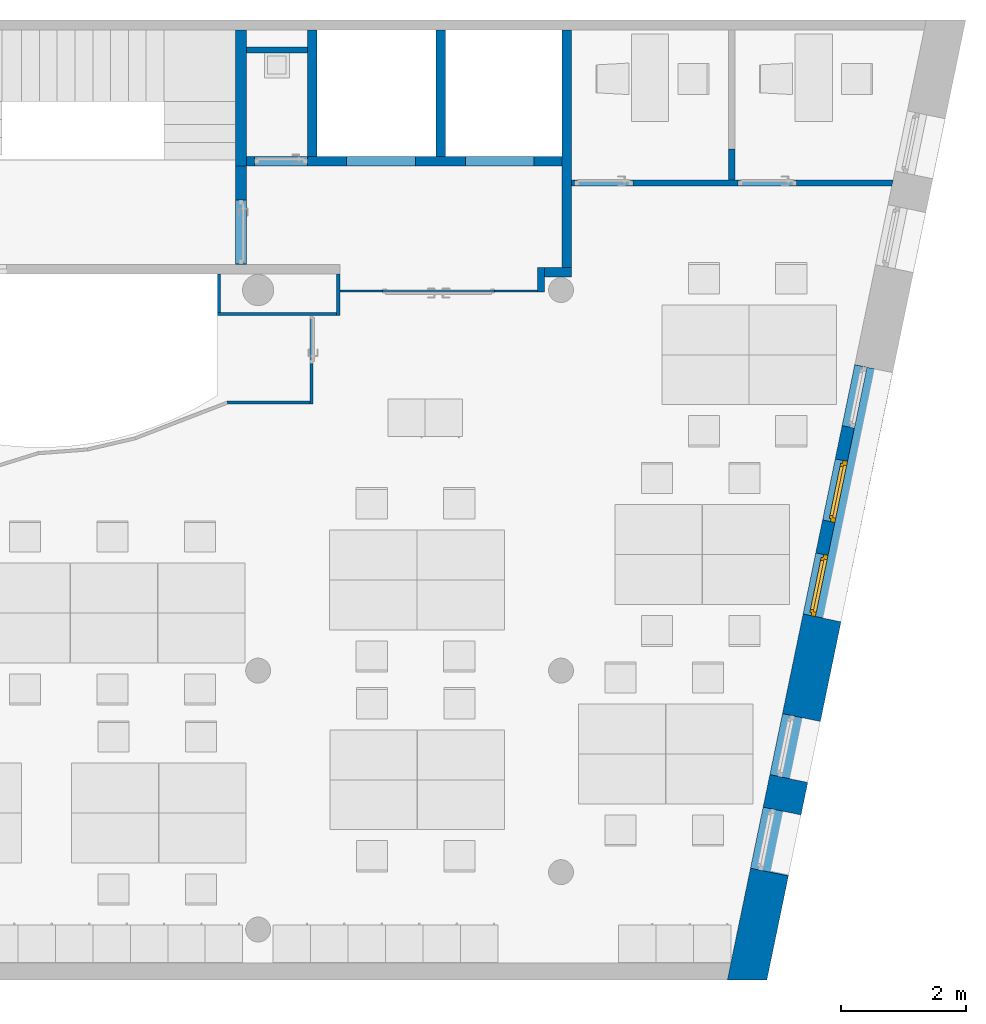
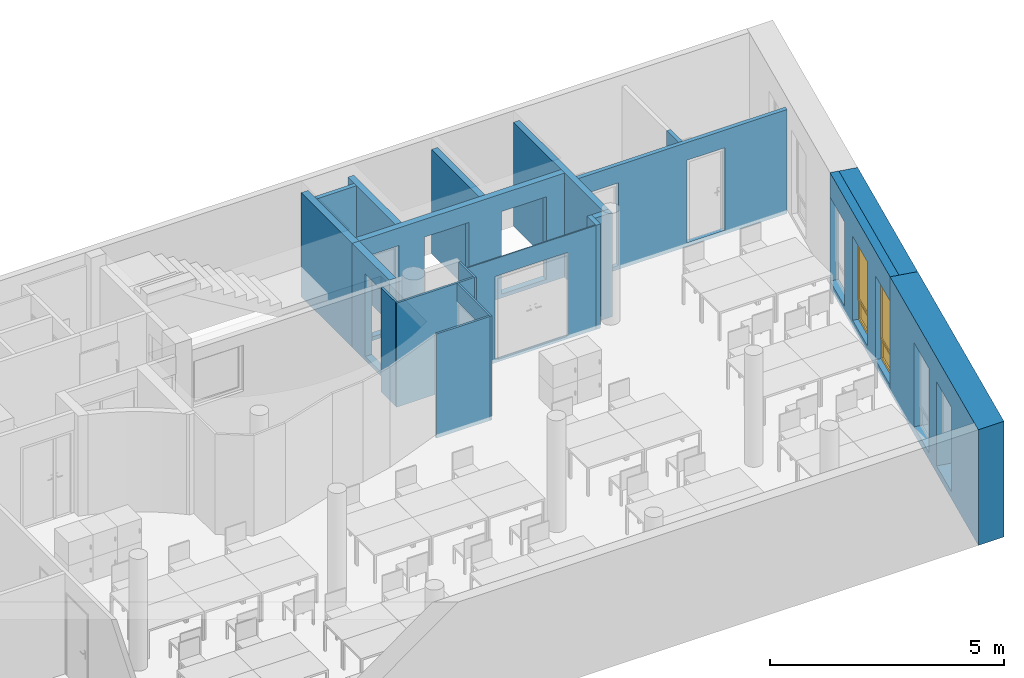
"""IFC4 building model written with IfcOpenShell, lengths in metres."""

from ifc_helpers import new_model, entity, si_unit, converted_unit, derived_unit, frame, frame_2d, origin, origin_with_axes, place, context, subcontext, project, spatial, polyline, rectangle, outline, extrude, closed_shell, open_shell, surface_model, source, transform, mapped, material, layer, layer_set, layer_usage, type_object, element, fill, save


model = new_model("IFC4")

# Units and contexts
model_context = context("Model", 3, precision=1e-05, world=origin())
body_context = subcontext(model_context, "Body", "Model", "MODEL_VIEW")
ifc_project = project(units=[si_unit("LENGTHUNIT", "METRE"), si_unit("AREAUNIT", "SQUARE_METRE"), si_unit("VOLUMEUNIT", "CUBIC_METRE"), si_unit("MASSUNIT", "GRAM", prefix="KILO"), converted_unit("PLANEANGLEUNIT", "DEGREE", entity("IfcPlaneAngleMeasure", 0.0174532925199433), si_unit("PLANEANGLEUNIT", "RADIAN"), dimensions=[0, 0, 0, 0, 0, 0, 0]), derived_unit("THERMALTRANSMITTANCEUNIT", [(si_unit("POWERUNIT", "WATT"), 1), (si_unit("THERMODYNAMICTEMPERATUREUNIT", "KELVIN"), -1), (si_unit("LENGTHUNIT", "METRE"), -2)]), derived_unit("VOLUMETRICFLOWRATEUNIT", [(si_unit("LENGTHUNIT", "METRE"), 3), (converted_unit("TIMEUNIT", "hour", entity("IfcTimeMeasure", 3600.0), si_unit("TIMEUNIT", "SECOND"), dimensions=[0, 0, 1, 0, 0, 0, 0]), -1), (si_unit("LENGTHUNIT", "METRE"), -1)])], contexts=[model_context])

# Building, storeys
building_placement = place(None, origin())
building = spatial("IfcBuilding", under=ifc_project, at=building_placement, Name="HABITATGE PLURIFAMILIAR", CompositionType="ELEMENT")
storey_1_placement = place(building_placement, frame((0.0, 0.0, 18.29)))
storey_1 = spatial("IfcBuildingStorey", under=building, at=storey_1_placement, Name="PLANTA CINQUENA", CompositionType="ELEMENT", Elevation=18.29)
storey_2_placement = place(storey_1_placement, frame((0.0, 0.0, 15.28)))
storey_2 = spatial("IfcBuildingStorey", under=storey_1, at=storey_2_placement, Name="NOU", CompositionType="PARTIAL")

# Walls
ifc_material_1 = material()
ifc_layer_1 = layer(ifc_material_1, 0.15)
ifc_layer_set_1 = layer_set([ifc_layer_1])
ifc_layer_usage_1 = layer_usage(ifc_layer_set_1, "AXIS2", "POSITIVE", 0.0)
wall_1_placement = place(storey_2_placement, frame((419.136984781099, 26.0394598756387, -15.38), z_axis=(0.0, 0.0, 1.0), x_axis=(0.0, 1.0, 0.0)))
element("IfcWall", 1, at=wall_1_placement, inside=storey_2, material=ifc_layer_usage_1, Name="Evans P5", context=body_context, shape_type="SweptSolid", body=[
    extrude(rectangle(XDim=2.02878802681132, YDim=0.15, at=frame_2d((1.01439401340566, 0.075), x_axis=(1.0, 0.0))), origin_with_axes(), (0.0, 0.0, 1.0), 2.71),
])
ifc_material_2 = material()
ifc_layer_2 = layer(ifc_material_2, 0.15)
ifc_layer_set_2 = layer_set([ifc_layer_2])
ifc_layer_usage_2 = layer_usage(ifc_layer_set_2, "AXIS2", "POSITIVE", 0.0)
wall_2_placement = place(storey_2_placement, frame((421.156984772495, 24.2594598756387, -15.38), z_axis=(0.0, 0.0, 1.0), x_axis=(-1.0, 0.0, 0.0)))
element("IfcWall", 2, at=wall_2_placement, inside=storey_2, material=ifc_layer_usage_2, Name="Evans P5", context=body_context, shape_type="SweptSolid", body=[
    extrude(rectangle(XDim=0.42934681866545, YDim=0.15, at=frame_2d((0.214673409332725, 0.075), x_axis=(1.0, 0.0))), origin_with_axes(), (0.0, 0.0, 1.0), 2.71),
])
ifc_material_3 = material()
ifc_layer_3 = layer(ifc_material_3, 0.15)
ifc_layer_set_3 = layer_set([ifc_layer_3])
ifc_layer_usage_3 = layer_usage(ifc_layer_set_3, "AXIS2", "POSITIVE", 0.0)
wall_3_placement = place(storey_2_placement, frame((421.006984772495, 28.06824790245, -15.38), z_axis=(0.0, 0.0, 1.0), x_axis=(0.0, -1.0, 0.0)))
element("IfcWall", 3, at=wall_3_placement, inside=storey_2, material=ifc_layer_usage_3, Name="Evans P5", context=body_context, shape_type="SweptSolid", body=[
    extrude(rectangle(XDim=3.80878802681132, YDim=0.15, at=frame_2d((1.90439401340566, 0.075), x_axis=(1.0, 0.0))), origin_with_axes(), (0.0, 0.0, 1.0), 2.71),
])

# Wall, opening
ifc_material_4 = material()
ifc_layer_4 = layer(ifc_material_4, 0.03)
ifc_layer_set_4 = layer_set([ifc_layer_4])
ifc_layer_usage_4 = layer_usage(ifc_layer_set_4, "AXIS2", "POSITIVE", 0.0)
wall_4_placement = place(storey_2_placement, frame((420.61763795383, 23.8994598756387, -15.38), z_axis=(0.0, 0.0, 1.0), x_axis=(-1.0, 0.0, 0.0)))
wall_4 = element("IfcWall", 4, at=wall_4_placement, inside=storey_2, material=ifc_layer_usage_4, Name="Evans P5", context=body_context, shape_type="SweptSolid", body=[
    extrude(rectangle(XDim=3.17065318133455, YDim=0.03, at=frame_2d((1.58532659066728, 0.015), x_axis=(1.0, 0.0))), origin_with_axes(), (0.0, 0.0, 1.0), 2.71),
])
opening_1_placement = place(wall_4_placement, frame((2.48717139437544, 0.03, 0.1), z_axis=(0.0, -1.0, 0.0), x_axis=(0.0, 0.0, 1.0)))
element("IfcOpeningElement", 5, at=opening_1_placement, cuts=wall_4, Name="Vano porta P5", ObjectType="Opening", context=body_context, shape_type="SweptSolid", body=[
    extrude(outline(polyline([(2.15, 1.79909702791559), (2.15, 0.0), (0.0, 0.0), (0.0, 1.79909702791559), (2.15, 1.79909702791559)])), origin_with_axes(), (0.0, 0.0, 1.0), 0.03),
])

# Walls
ifc_material_5 = material()
ifc_layer_5 = layer(ifc_material_5, 0.05)
ifc_layer_set_5 = layer_set([ifc_layer_5])
ifc_layer_usage_5 = layer_usage(ifc_layer_set_5, "AXIS2", "POSITIVE", 0.0)
wall_5_placement = place(storey_2_placement, frame((417.446984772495, 23.4894598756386, -15.38), z_axis=(0.0, 0.0, 1.0), x_axis=(0.0, 1.0, 0.0)))
element("IfcWall", 6, at=wall_5_placement, inside=storey_2, material=ifc_layer_usage_5, Name="Evans P5", context=body_context, shape_type="SweptSolid", body=[
    extrude(rectangle(XDim=0.67, YDim=0.05, at=frame_2d((0.335, 0.025), x_axis=(1.0, 0.0))), origin_with_axes(), (0.0, 0.0, 1.0), 2.71),
])
ifc_material_6 = material()
ifc_layer_6 = layer(ifc_material_6, 0.05)
ifc_layer_set_6 = layer_set([ifc_layer_6])
ifc_layer_usage_6 = layer_usage(ifc_layer_set_6, "AXIS2", "POSITIVE", 0.0)
wall_6_placement = place(storey_2_placement, frame((415.486984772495, 23.4894598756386, -15.38)))
element("IfcWall", 7, at=wall_6_placement, inside=storey_2, material=ifc_layer_usage_6, Name="Evans P5", context=body_context, shape_type="SweptSolid", body=[
    extrude(rectangle(XDim=1.91, YDim=0.05, at=frame_2d((0.955, 0.025), x_axis=(1.0, 0.0))), origin_with_axes(), (0.0, 0.0, 1.0), 2.71),
])
ifc_material_7 = material()
ifc_layer_7 = layer(ifc_material_7, 0.05)
ifc_layer_set_7 = layer_set([ifc_layer_7])
ifc_layer_usage_7 = layer_usage(ifc_layer_set_7, "AXIS2", "POSITIVE", 0.0)
wall_7_placement = place(storey_2_placement, frame((415.486984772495, 24.1594598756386, -15.38), z_axis=(0.0, 0.0, 1.0), x_axis=(0.0, -1.0, 0.0)))
element("IfcWall", 8, at=wall_7_placement, inside=storey_2, material=ifc_layer_usage_7, Name="Evans P5", context=body_context, shape_type="SweptSolid", body=[
    extrude(rectangle(XDim=0.62, YDim=0.05, at=frame_2d((0.31, 0.025), x_axis=(1.0, 0.0))), origin_with_axes(), (0.0, 0.0, 1.0), 2.71),
])
ifc_material_8 = material()
ifc_layer_8 = layer(ifc_material_8, 0.15)
ifc_layer_set_8 = layer_set([ifc_layer_8])
ifc_layer_usage_8 = layer_usage(ifc_layer_set_8, "AXIS2", "POSITIVE", 0.0)
wall_8_placement = place(storey_2_placement, frame((417.076984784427, 26.0394598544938, -15.38), z_axis=(0.0, 0.0, 1.0), x_axis=(0.0, 1.0, 0.0)))
element("IfcWall", 9, at=wall_8_placement, inside=storey_2, material=ifc_layer_usage_8, Name="Evans P5", context=body_context, shape_type="SweptSolid", body=[
    extrude(outline(polyline([(0.0, -0.15), (2.02878804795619, -0.15), (2.02878804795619, 0.0), (1.08439153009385e-05, 0.0), (0.0, -0.15)])), frame((0.0, 0.15, 0.0), z_axis=(0.0, 0.0, 1.0), x_axis=(1.0, 0.0, 0.0)), (0.0, 0.0, 1.0), 2.71),
])

# Wall, openings
ifc_material_9 = material()
ifc_layer_9 = layer(ifc_material_9, 0.15)
ifc_layer_set_9 = layer_set([ifc_layer_9])
ifc_layer_usage_9 = layer_usage(ifc_layer_set_9, "AXIS2", "POSITIVE", 0.0)
wall_9_placement = place(storey_2_placement, frame((415.946984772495, 25.8894598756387, -15.38)))
wall_9 = element("IfcWall", 10, at=wall_9_placement, inside=storey_2, material=ifc_layer_usage_9, Name="Evans P5", context=body_context, shape_type="SweptSolid", body=[
    extrude(outline(polyline([(0.0, 0.0), (5.05999999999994, 0.0), (5.05999999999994, 0.15), (1.13000001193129, 0.15), (0.980000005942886, 0.150010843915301), (0.13, 0.150010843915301), (0.0, 0.150000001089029), (0.0, 0.0)])), origin_with_axes(), (0.0, 0.0, 1.0), 2.71),
])
opening_2_placement = place(wall_9_placement, frame((3.51000000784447, 0.0, 0.1), z_axis=(0.0, 1.0, 0.0), x_axis=(0.0, 0.0, 1.0)))
element("IfcOpeningElement", 11, at=opening_2_placement, cuts=wall_9, Name="Vano porta P5", ObjectType="Opening", context=body_context, shape_type="SweptSolid", body=[
    extrude(outline(polyline([(2.15, 1.09999999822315), (2.15, 0.0), (0.0, 0.0), (0.0, 1.09999999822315), (2.15, 1.09999999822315)])), origin_with_axes(), (0.0, 0.0, 1.0), 0.15),
])
opening_3_placement = place(wall_9_placement, frame((1.61000001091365, 0.0, 0.1), z_axis=(0.0, 1.0, 0.0), x_axis=(0.0, 0.0, 1.0)))
element("IfcOpeningElement", 12, at=opening_3_placement, cuts=wall_9, Name="Vano porta P5", ObjectType="Opening", context=body_context, shape_type="SweptSolid", body=[
    extrude(outline(polyline([(2.15, 1.09999999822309), (2.15, 0.0), (0.0, 0.0), (0.0, 1.09999999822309), (2.15, 1.09999999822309)])), origin_with_axes(), (0.0, 0.0, 1.0), 0.15),
])
opening_4_placement = place(wall_9_placement, frame((0.13, 0.0, 0.1), z_axis=(0.0, 1.0, 0.0), x_axis=(0.0, 0.0, 1.0)))
element("IfcOpeningElement", 13, at=opening_4_placement, cuts=wall_9, Name="Vano porta P5", ObjectType="Opening", context=body_context, shape_type="SweptSolid", body=[
    extrude(outline(polyline([(2.15, 0.85), (2.15, 0.0), (0.0, 0.0), (0.0, 0.85), (2.15, 0.85)])), origin_with_axes(), (0.0, 0.0, 1.0), 0.150010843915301),
])

# Walls
ifc_material_10 = material()
ifc_layer_10 = layer(ifc_material_10, 0.17)
ifc_layer_set_10 = layer_set([ifc_layer_10])
ifc_layer_usage_10 = layer_usage(ifc_layer_set_10, "AXIS2", "POSITIVE", 0.0)
wall_10_placement = place(storey_2_placement, frame((415.776984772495, 28.0682478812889, -15.38), z_axis=(0.0, 0.0, 1.0), x_axis=(0.0, -1.0, 0.0)))
element("IfcWall", 14, at=wall_10_placement, inside=storey_2, material=ifc_layer_usage_10, Name="Evans P5", context=body_context, shape_type="SweptSolid", body=[
    extrude(rectangle(XDim=2.17878800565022, YDim=0.17, at=frame_2d((1.08939400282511, 0.085), x_axis=(1.0, 0.0))), origin_with_axes(), (0.0, 0.0, 1.0), 2.71),
])
ifc_material_11 = material()
ifc_layer_11 = layer(ifc_material_11, 0.11)
ifc_layer_set_11 = layer_set([ifc_layer_11])
ifc_layer_usage_11 = layer_usage(ifc_layer_set_11, "AXIS2", "POSITIVE", 0.0)
wall_11_placement = place(storey_2_placement, frame((420.72763795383, 23.8694598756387, -15.38), z_axis=(0.0, 0.0, 1.0), x_axis=(0.0, 1.0, 0.0)))
element("IfcWall", 15, at=wall_11_placement, inside=storey_2, material=ifc_layer_usage_11, Name="Evans P5", context=body_context, shape_type="SweptSolid", body=[
    extrude(rectangle(XDim=0.39, YDim=0.11, at=frame_2d((0.195, 0.055), x_axis=(1.0, 0.0))), origin_with_axes(), (0.0, 0.0, 1.0), 2.71),
])
ifc_material_12 = material()
ifc_layer_12 = layer(ifc_material_12, 0.05)
ifc_layer_set_12 = layer_set([ifc_layer_12])
ifc_layer_usage_12 = layer_usage(ifc_layer_set_12, "AXIS2", "POSITIVE", 0.0)
wall_12_placement = place(storey_2_placement, frame((415.646984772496, 22.0694598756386, -15.38)))
element("IfcWall", 16, at=wall_12_placement, inside=storey_2, material=ifc_layer_usage_12, Name="Mampara P5", context=body_context, shape_type="SweptSolid", body=[
    extrude(outline(polyline([(0.00933347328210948, 0.0), (1.32933347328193, 0.0), (1.32933347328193, 0.05), (0.0, 0.05), (0.00933347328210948, 0.0)])), frame((-0.00933347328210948, 0.0, 0.0), z_axis=(0.0, 0.0, 1.0), x_axis=(1.0, 0.0, 0.0)), (0.0, 0.0, 1.0), 2.71),
])

# Wall, opening
ifc_material_13 = material()
ifc_layer_13 = layer(ifc_material_13, 0.05)
ifc_layer_set_13 = layer_set([ifc_layer_13])
ifc_layer_usage_13 = layer_usage(ifc_layer_set_13, "AXIS2", "POSITIVE", 0.0)
wall_13_placement = place(storey_2_placement, frame((417.016984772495, 22.0694598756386, -15.38), z_axis=(0.0, 0.0, 1.0), x_axis=(0.0, 1.0, 0.0)))
wall_13 = element("IfcWall", 17, at=wall_13_placement, inside=storey_2, material=ifc_layer_usage_13, Name="Mampara P5", context=body_context, shape_type="SweptSolid", body=[
    extrude(rectangle(XDim=1.42, YDim=0.05, at=frame_2d((0.71, 0.025), x_axis=(1.0, 0.0))), origin_with_axes(), (0.0, 0.0, 1.0), 2.71),
])
opening_5_placement = place(wall_13_placement, frame((1.42, 0.05, 0.1), z_axis=(0.0, -1.0, 0.0), x_axis=(0.0, 0.0, 1.0)))
element("IfcOpeningElement", 18, at=opening_5_placement, cuts=wall_13, Name="Vano porta P5", ObjectType="Opening", context=body_context, shape_type="SweptSolid", body=[
    extrude(outline(polyline([(2.15, 0.763317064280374), (2.15, 0.0), (0.0, 0.0), (0.0, 0.763317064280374), (2.15, 0.763317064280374)])), origin_with_axes(), (0.0, 0.0, 1.0), 0.05),
])

# Wall, openings
ifc_material_14 = material()
ifc_layer_14 = layer(ifc_material_14, 0.620000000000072)
ifc_layer_set_14 = layer_set([ifc_layer_14])
ifc_layer_usage_14 = layer_usage(ifc_layer_set_14, "AXIS2", "POSITIVE", 0.0)
wall_14_placement = place(storey_2_placement, frame((424.291440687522, 12.8406121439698, -15.38), z_axis=(0.0, 0.0, 1.0), x_axis=(0.202727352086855, 0.979235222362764, 0.0)))
wall_14 = element("IfcWall", 19, at=wall_14_placement, inside=storey_2, material=ifc_layer_usage_14, Name="Façana sur-est P5", context=body_context, shape_type="SweptSolid", body=[
    extrude(outline(polyline([(0.128356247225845, -0.620000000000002), (5.99096327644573, -0.620000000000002), (5.99096327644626, 0.0), (0.0, 0.0), (0.128356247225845, -0.620000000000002)])), frame((-0.128356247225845, 0.620000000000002, 0.0), z_axis=(0.0, 0.0, 1.0), x_axis=(1.0, 0.0, 0.0)), (0.0, 0.0, 1.0), 3.01),
])
opening_6_placement = place(wall_14_placement, frame((1.70184256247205, 0.0, 0.19), z_axis=(6.60117122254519e-15, 1.0, 0.0), x_axis=(0.0, 0.0, 1.0)))
element("IfcOpeningElement", 20, at=opening_6_placement, cuts=wall_14, Name="Vano finestra P5", ObjectType="Opening", context=body_context, shape_type="SweptSolid", body=[
    extrude(outline(polyline([(2.19, 1.00000000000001), (2.19, 0.0), (0.0, 0.0), (0.0, 1.00000000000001), (2.19, 1.00000000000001)])), origin_with_axes(), (0.0, 0.0, 1.0), 0.620000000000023),
])
opening_7_placement = place(wall_14_placement, frame((3.23329492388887, 0.0, 0.19), z_axis=(1.02684885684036e-14, 1.0, 0.0), x_axis=(0.0, 0.0, 1.0)))
element("IfcOpeningElement", 21, at=opening_7_placement, cuts=wall_14, Name="Vano finestra P5", ObjectType="Opening", context=body_context, shape_type="SweptSolid", body=[
    extrude(outline(polyline([(2.19, 0.998546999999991), (2.19, 0.0), (0.0, 0.0), (0.0, 0.998546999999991), (2.19, 0.998546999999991)])), origin_with_axes(), (0.0, 0.0, 1.0), 0.620000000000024),
])

# Wall, openings, doors
ifc_material_15 = material()
ifc_layer_15 = layer(ifc_material_15, 0.199999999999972)
ifc_layer_set_15 = layer_set([ifc_layer_15])
ifc_layer_usage_15 = layer_usage(ifc_layer_set_15, "AXIS2", "POSITIVE", 0.0)
wall_15_placement = place(storey_2_placement, frame((425.70056364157, 22.7054025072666, -15.38), z_axis=(0.0, 0.0, 1.0), x_axis=(-0.202727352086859, -0.979235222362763, 0.0)))
wall_15 = element("IfcWall", 22, at=wall_15_placement, inside=storey_2, material=ifc_layer_usage_15, Name="Façana sur-est P5", context=body_context, shape_type="SweptSolid", body=[
    extrude(rectangle(XDim=4.0830109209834, YDim=0.199999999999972, at=frame_2d((2.0415054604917, 0.0999999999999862), x_axis=(1.0, 0.0))), origin_with_axes(), (0.0, 0.0, 1.0), 3.01),
])
opening_8_placement = place(wall_15_placement, frame((4.0830109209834, 0.19999999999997, 0.19), z_axis=(-1.13686837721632e-14, -1.0, 0.0), x_axis=(0.0, 0.0, 1.0)))
opening_8 = element("IfcOpeningElement", 23, at=opening_8_placement, cuts=wall_15, Name="Vano finestra P5", ObjectType="Opening", context=body_context, shape_type="SweptSolid", body=[
    extrude(outline(polyline([(2.19, 1.0), (2.19, 0.0), (0.0, 0.0), (0.0, 1.0), (2.19, 1.0)])), origin_with_axes(), (0.0, 0.0, 1.0), 0.199999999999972),
])
opening_9_placement = place(wall_15_placement, frame((2.54368981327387, 0.199999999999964, 0.19), z_axis=(-1.13686837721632e-14, -1.0, 0.0), x_axis=(0.0, 0.0, 1.0)))
opening_9 = element("IfcOpeningElement", 24, at=opening_9_placement, cuts=wall_15, Name="Vano finestra P5", ObjectType="Opening", context=body_context, shape_type="SweptSolid", body=[
    extrude(outline(polyline([(2.19, 1.0), (2.19, 0.0), (0.0, 0.0), (0.0, 1.0), (2.19, 1.0)])), origin_with_axes(), (0.0, 0.0, 1.0), 0.199999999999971),
])
opening_10_placement = place(wall_15_placement, frame((0.999999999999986, 0.199999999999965, 0.19), z_axis=(6.82121026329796e-15, -1.0, 0.0), x_axis=(0.0, 0.0, 1.0)))
element("IfcOpeningElement", 25, at=opening_10_placement, cuts=wall_15, Name="Vano finestra P5", ObjectType="Opening", context=body_context, shape_type="SweptSolid", body=[
    extrude(outline(polyline([(2.19, 0.996324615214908), (2.19, 0.0), (0.0, 0.0), (0.0, 0.996324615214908), (2.19, 0.996324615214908)])), origin_with_axes(), (0.0, 0.0, 1.0), 0.199999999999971),
])
door_type_1 = type_object("IfcDoorType", Name="Finestra P5", OperationType="NOTDEFINED", ParameterTakesPrecedence=False, PredefinedType="DOOR")
shared_shape = source(origin_with_axes(), body_context, "Body", "SurfaceModel", [
    surface_model("IfcShellBasedSurfaceModel", [(0.0, 0.0700000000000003, 2.19), (0.0, 0.07, 0.0), (0.07, 0.07, 0.0), (0.07, 0.0700000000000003, 2.19), (0.0, 0.0, 0.0), (0.0, 0.0, 2.19), (0.07, 0.0, 2.19), (0.07, 0.0, 0.0)], [closed_shell([[[0, 1, 2, 3]], [[4, 5, 6, 7]], [[1, 0, 5, 4]], [[2, 1, 4, 7]], [[3, 2, 7, 6]], [[0, 3, 6, 5]]], orient=[[False], [False], [False], [False], [False], [False]])]),
    surface_model("IfcShellBasedSurfaceModel", [(0.929999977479, 0.0700000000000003, 2.19), (0.929999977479, 0.07, 0.0), (0.999999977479, 0.07, 0.0), (0.999999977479, 0.0700000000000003, 2.19), (0.929999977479, 0.0, 0.0), (0.929999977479, 0.0, 2.19), (0.999999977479, 0.0, 2.19), (0.999999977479, 0.0, 0.0)], [closed_shell([[[0, 1, 2, 3]], [[4, 5, 6, 7]], [[1, 0, 5, 4]], [[2, 1, 4, 7]], [[3, 2, 7, 6]], [[0, 3, 6, 5]]], orient=[[False], [False], [False], [False], [False], [False]])]),
    surface_model("IfcShellBasedSurfaceModel", [(0.07, 0.07, 0.07), (0.07, 0.07, 0.0), (0.929999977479, 0.07, 0.0), (0.929999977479, 0.07, 0.07), (0.07, 0.0, 0.0), (0.07, 0.0, 0.07), (0.929999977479, 0.0, 0.07), (0.929999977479, 0.0, 0.0)], [closed_shell([[[0, 1, 2, 3]], [[4, 5, 6, 7]], [[1, 0, 5, 4]], [[2, 1, 4, 7]], [[3, 2, 7, 6]], [[0, 3, 6, 5]]], orient=[[False], [False], [False], [False], [False], [False]])]),
    surface_model("IfcShellBasedSurfaceModel", [(0.07, 0.0700000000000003, 2.19), (0.07, 0.0700000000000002, 2.12), (0.929999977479, 0.0700000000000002, 2.12), (0.929999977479, 0.0700000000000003, 2.19), (0.07, 0.0, 2.12), (0.07, 0.0, 2.19), (0.929999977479, 0.0, 2.19), (0.929999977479, 0.0, 2.12)], [closed_shell([[[0, 1, 2, 3]], [[4, 5, 6, 7]], [[1, 0, 5, 4]], [[2, 1, 4, 7]], [[3, 2, 7, 6]], [[0, 3, 6, 5]]], orient=[[False], [False], [False], [False], [False], [False]])]),
    surface_model("IfcShellBasedSurfaceModel", [(0.07, 0.035, 0.07), (0.929999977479, 0.035, 0.07), (0.929999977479, 0.0350000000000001, 0.57), (0.07, 0.0350000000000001, 0.57)], [open_shell([[[0, 1, 2, 3]]], orient=[[False]])]),
    surface_model("IfcShellBasedSurfaceModel", [(0.05, 0.1, 2.14), (0.05, 0.1, 0.551), (0.1, 0.1, 0.551), (0.1, 0.1, 2.14), (0.05, 0.0500000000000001, 0.551), (0.05, 0.0500000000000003, 2.14), (0.1, 0.0500000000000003, 2.14), (0.1, 0.0500000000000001, 0.551)], [closed_shell([[[0, 1, 2, 3]], [[4, 5, 6, 7]], [[1, 0, 5, 4]], [[2, 1, 4, 7]], [[3, 2, 7, 6]], [[0, 3, 6, 5]]], orient=[[False], [False], [False], [False], [False], [False]])]),
    surface_model("IfcShellBasedSurfaceModel", [(0.899999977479, 0.1, 2.14), (0.899999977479, 0.1, 0.551), (0.949999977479, 0.1, 0.551), (0.949999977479, 0.1, 2.14), (0.899999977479, 0.0500000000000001, 0.551), (0.899999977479, 0.0500000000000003, 2.14), (0.949999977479, 0.0500000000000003, 2.14), (0.949999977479, 0.0500000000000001, 0.551)], [closed_shell([[[0, 1, 2, 3]], [[4, 5, 6, 7]], [[1, 0, 5, 4]], [[2, 1, 4, 7]], [[3, 2, 7, 6]], [[0, 3, 6, 5]]], orient=[[False], [False], [False], [False], [False], [False]])]),
    surface_model("IfcShellBasedSurfaceModel", [(0.1, 0.1, 0.601), (0.1, 0.1, 0.551), (0.899999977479, 0.1, 0.551), (0.899999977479, 0.1, 0.601), (0.1, 0.0500000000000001, 0.551), (0.1, 0.0500000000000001, 0.601), (0.899999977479, 0.0500000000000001, 0.601), (0.899999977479, 0.0500000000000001, 0.551)], [closed_shell([[[0, 1, 2, 3]], [[4, 5, 6, 7]], [[1, 0, 5, 4]], [[2, 1, 4, 7]], [[3, 2, 7, 6]], [[0, 3, 6, 5]]], orient=[[False], [False], [False], [False], [False], [False]])]),
    surface_model("IfcShellBasedSurfaceModel", [(0.1, 0.1, 2.14), (0.1, 0.1, 2.09), (0.899999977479, 0.1, 2.09), (0.899999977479, 0.1, 2.14), (0.1, 0.0500000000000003, 2.09), (0.1, 0.0500000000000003, 2.14), (0.899999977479, 0.0500000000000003, 2.14), (0.899999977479, 0.0500000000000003, 2.09)], [closed_shell([[[0, 1, 2, 3]], [[4, 5, 6, 7]], [[1, 0, 5, 4]], [[2, 1, 4, 7]], [[3, 2, 7, 6]], [[0, 3, 6, 5]]], orient=[[False], [False], [False], [False], [False], [False]])]),
    surface_model("IfcShellBasedSurfaceModel", [(0.1, 0.0750000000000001, 0.601), (0.899999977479, 0.0750000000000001, 0.601), (0.899999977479, 0.0750000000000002, 2.09), (0.1, 0.0750000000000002, 2.09)], [open_shell([[[0, 1, 2, 3]]], orient=[[False]])]),
])
door_1_placement = place(opening_8_placement, frame((0.0, 0.0, 0.0), z_axis=(1.0, 0.0, 0.0), x_axis=(0.0, 1.00000002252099, 6.34770014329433e-14)))
door_1 = element("IfcDoor", 26, at=door_1_placement, inside=storey_2, type_object=door_type_1, Name="Finestra P5", OverallHeight=2.19, OverallWidth=1.0, context=body_context, shape_type="MappedRepresentation", body=[
    mapped(shared_shape, transform((0.0, 0.0, 0.0), x_axis=(1.0, 0.0, 0.0), y_axis=(0.0, 1.0, 0.0), z_axis=(0.0, 0.0, 1.0), scale=1.00000002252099)),
])
fill(opening_8, door_1)
door_type_2 = type_object("IfcDoorType", Name="Finestra P5", OperationType="NOTDEFINED", ParameterTakesPrecedence=False, PredefinedType="DOOR")
door_2_placement = place(opening_9_placement, frame((0.0, 0.0, 0.0), z_axis=(1.0, 0.0, 0.0), x_axis=(0.0, 1.000000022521, 6.43374242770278e-14)))
door_2 = element("IfcDoor", 27, at=door_2_placement, inside=storey_2, type_object=door_type_2, Name="Finestra P5", OverallHeight=2.19, OverallWidth=1.0, context=body_context, shape_type="MappedRepresentation", body=[
    mapped(shared_shape, transform((0.0, 0.0, 0.0), x_axis=(1.0, 0.0, 0.0), y_axis=(0.0, 1.0, 0.0), z_axis=(0.0, 0.0, 1.0), scale=1.000000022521)),
])
fill(opening_9, door_2)

# Walls
ifc_material_16 = material()
ifc_layer_16 = layer(ifc_material_16, 0.620000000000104)
ifc_layer_set_16 = layer_set([ifc_layer_16])
ifc_layer_usage_16 = layer_usage(ifc_layer_set_16, "AXIS2", "POSITIVE", 0.0)
wall_16_placement = place(storey_2_placement, frame((425.701386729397, 22.7014987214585, -13.0), z_axis=(0.0, 0.0, 1.0), x_axis=(-0.203110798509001, -0.979155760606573, 0.0)))
element("IfcWall", 28, at=wall_16_placement, inside=storey_2, material=ifc_layer_usage_16, Name="Façana sur-est P5", context=body_context, shape_type="SweptSolid", body=[
    extrude(outline(polyline([(-4.20241601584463, -0.0255774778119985), (-0.123303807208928, -0.0255774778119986), (-0.123303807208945, 0.594422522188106), (-4.20253202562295, 0.594422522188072), (-4.20241601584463, -0.0255774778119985)])), frame((4.20241601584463, 0.0255774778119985, 0.0), z_axis=(0.0, 0.0, 1.0), x_axis=(1.0, 0.0, 0.0)), (0.0, 0.0, 1.0), 0.63),
])
ifc_material_17 = material()
ifc_layer_17 = layer(ifc_material_17, 0.1)
ifc_layer_set_17 = layer_set([ifc_layer_17])
ifc_layer_usage_17 = layer_usage(ifc_layer_set_17, "AXIS2", "POSITIVE", 0.0)
wall_17_placement = place(storey_2_placement, frame((415.946984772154, 27.6994598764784, -15.38)))
element("IfcWall", 29, at=wall_17_placement, inside=storey_2, material=ifc_layer_usage_17, Name="Evans P5", context=body_context, shape_type="SweptSolid", body=[
    extrude(rectangle(XDim=0.98000001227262, YDim=0.1, at=frame_2d((0.49000000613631, 0.05), x_axis=(1.0, 0.0))), origin_with_axes(), (0.0, 0.0, 1.0), 2.71),
])
ifc_material_18 = material()
ifc_layer_18 = layer(ifc_material_18, 0.1)
ifc_layer_set_18 = layer_set([ifc_layer_18])
ifc_layer_usage_18 = layer_usage(ifc_layer_set_18, "AXIS2", "POSITIVE", 0.0)
wall_18_placement = place(storey_2_placement, frame((423.679675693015, 26.1641269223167, -15.38), z_axis=(0.0, 0.0, 1.0), x_axis=(0.0, -1.0, 0.0)))
element("IfcWall", 30, at=wall_18_placement, inside=storey_2, material=ifc_layer_usage_18, Name="Mampara P5", context=body_context, shape_type="SweptSolid", body=[
    extrude(rectangle(XDim=0.5, YDim=0.1, at=frame_2d((0.25, 0.05), x_axis=(1.0, 0.0))), origin_with_axes(), (0.0, 0.0, 1.0), 2.71),
])

# Wall, openings
ifc_material_19 = material()
ifc_layer_19 = layer(ifc_material_19, 0.1)
ifc_layer_set_19 = layer_set([ifc_layer_19])
ifc_layer_usage_19 = layer_usage(ifc_layer_set_19, "AXIS2", "POSITIVE", 0.0)
wall_19_placement = place(storey_2_placement, frame((426.315182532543, 25.6641269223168, -15.38), z_axis=(0.0, 0.0, 1.0), x_axis=(-1.0, -1.55161817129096e-14, 0.0)))
wall_19 = element("IfcWall", 31, at=wall_19_placement, inside=storey_2, material=ifc_layer_usage_19, Name="Mampara P5", context=body_context, shape_type="SweptSolid", body=[
    extrude(outline(polyline([(-5.15819776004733, -0.1), (0.0, -0.1), (0.0, 0.0), (-5.13747984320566, 0.0), (-5.15819776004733, -0.1)])), frame((5.15819776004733, 0.1, 0.0), z_axis=(0.0, 0.0, 1.0), x_axis=(1.0, 0.0, 0.0)), (0.0, 0.0, 1.0), 2.71),
])
opening_11_placement = place(wall_19_placement, frame((4.16819776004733, 0.0, 0.1), z_axis=(1.81898940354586e-14, 1.0, 0.0), x_axis=(0.0, 0.0, 1.0)))
element("IfcOpeningElement", 32, at=opening_11_placement, cuts=wall_19, Name="Vano porta P5", ObjectType="Opening", context=body_context, shape_type="SweptSolid", body=[
    extrude(outline(polyline([(2.15, 0.94), (2.15, 0.0), (0.0, 0.0), (0.0, 0.94), (2.15, 0.94)])), origin_with_axes(), (0.0, 0.0, 1.0), 0.1),
])
opening_12_placement = place(wall_19_placement, frame((1.54550683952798, 0.0, 0.1), z_axis=(1.59161572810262e-14, 1.0, 0.0), x_axis=(0.0, 0.0, 1.0)))
element("IfcOpeningElement", 33, at=opening_12_placement, cuts=wall_19, Name="Vano porta P5", ObjectType="Opening", context=body_context, shape_type="SweptSolid", body=[
    extrude(outline(polyline([(2.15, 0.94), (2.15, 0.0), (0.0, 0.0), (0.0, 0.94), (2.15, 0.94)])), origin_with_axes(), (0.0, 0.0, 1.0), 0.1),
])

# Wall, opening
ifc_material_20 = material()
ifc_layer_20 = layer(ifc_material_20, 0.17)
ifc_layer_set_20 = layer_set([ifc_layer_20])
ifc_layer_usage_20 = layer_usage(ifc_layer_set_20, "AXIS2", "POSITIVE", 0.0)
wall_20_placement = place(storey_2_placement, frame((415.776984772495, 25.8894598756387, -15.38), z_axis=(0.0, 0.0, 1.0), x_axis=(0.0, -1.0, 0.0)))
wall_20 = element("IfcWall", 34, at=wall_20_placement, inside=storey_2, material=ifc_layer_usage_20, Name="Evans P5", context=body_context, shape_type="SweptSolid", body=[
    extrude(rectangle(XDim=1.58000002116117, YDim=0.17, at=frame_2d((0.790000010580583, 0.085), x_axis=(1.0, 0.0))), origin_with_axes(), (0.0, 0.0, 1.0), 2.71),
])
opening_13_placement = place(wall_20_placement, frame((1.57066940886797, 0.17, 0.1), z_axis=(0.0, -1.0, 0.0), x_axis=(0.0, 0.0, 1.0)))
element("IfcOpeningElement", 35, at=opening_13_placement, cuts=wall_20, Name="Vano porta P5", ObjectType="Opening", context=body_context, shape_type="SweptSolid", body=[
    extrude(outline(polyline([(2.15, 1.0208737), (2.15, 0.0), (0.0, 0.0), (0.0, 1.0208737), (2.15, 1.0208737)])), origin_with_axes(), (0.0, 0.0, 1.0), 0.17),
])

save(model, "model.ifc")
